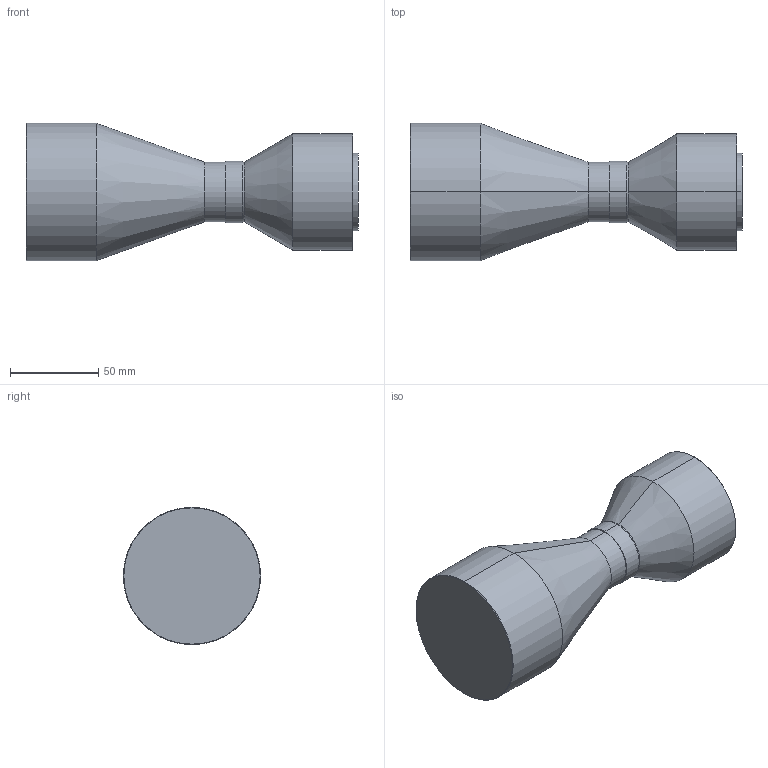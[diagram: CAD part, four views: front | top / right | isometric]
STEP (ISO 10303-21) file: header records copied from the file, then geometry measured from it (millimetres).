
FILE_DESCRIPTION (( 'STEP AP203' ), '1' );
FILE_NAME ('DTCM430-56-AL.STEP', '2019-11-25T06:32:34', ( 'Windows 蚚誧' ), ( '' ), 'SwSTEP 2.0', 'SolidWorks 2017', '' );
FILE_SCHEMA (( 'CONFIG_CONTROL_DESIGN' ));
Length unit declared in the file: millimetre
Products named in the file (1): DTCM430-56-AL
Bounding box: 188.5 x 78 x 78 mm (x, y, z)
Volume: 547400.8 mm3; surface area: 44394.3 mm2
Topology: 1 solids, 1 shells, 25 faces, 48 edges, 28 vertices
Faces by surface type: cylinder 12, cone 8, plane 5
Entity records: 711 total; most frequent: DIRECTION 128, CARTESIAN_POINT 102, ORIENTED_EDGE 96, AXIS2_PLACEMENT_3D 54, EDGE_CURVE 48, VERTEX_POINT 28, CIRCLE 28, EDGE_LOOP 28
